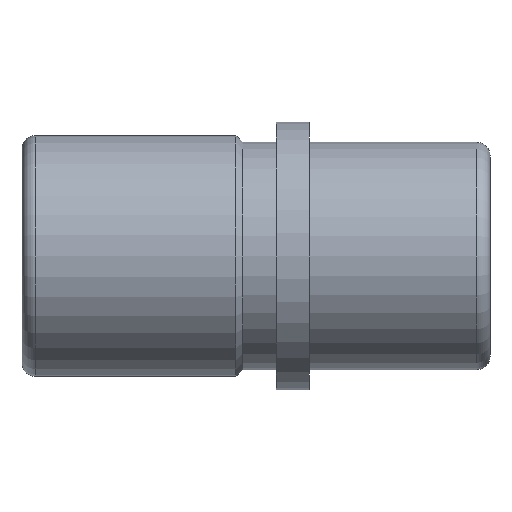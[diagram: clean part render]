
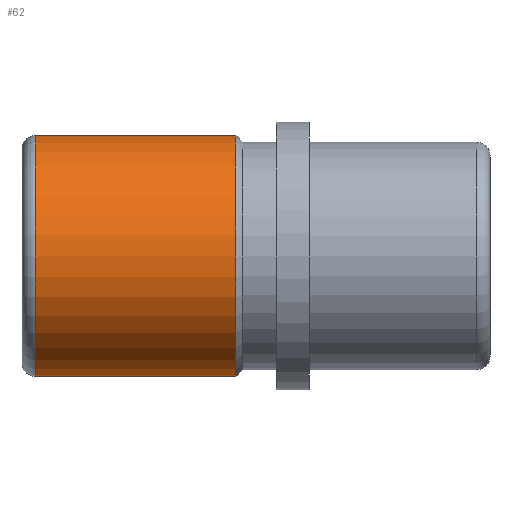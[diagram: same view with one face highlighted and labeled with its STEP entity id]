
A CAD part, front view. The second image highlights one B-rep face of the part: STEP entity #62.
In plain terms, the highlighted cylindrical face has radius 18 mm (diameter 36 mm), a full revolution.
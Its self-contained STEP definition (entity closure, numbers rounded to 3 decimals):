
#62 = ADVANCED_FACE( '', ( #131, #132 ), #133, .T. );
#131 = FACE_OUTER_BOUND( '', #194, .T. );
#132 = FACE_OUTER_BOUND( '', #195, .T. );
#133 = CYLINDRICAL_SURFACE( '', #196, 18. );
#194 = EDGE_LOOP( '', ( #275 ) );
#195 = EDGE_LOOP( '', ( #276 ) );
#196 = AXIS2_PLACEMENT_3D( '', #277, #278, #279 );
#275 = ORIENTED_EDGE( '', *, *, #309, .T. );
#276 = ORIENTED_EDGE( '', *, *, #304, .F. );
#277 = CARTESIAN_POINT( '', ( 27., 0., 0. ) );
#278 = DIRECTION( '', ( -1., 0., 0. ) );
#279 = DIRECTION( '', ( 0., 0., -1. ) );
#304 = EDGE_CURVE( '', #342, #342, #343, .T. );
#309 = EDGE_CURVE( '', #350, #350, #351, .T. );
#342 = VERTEX_POINT( '', #384 );
#343 = CIRCLE( '', #385, 18. );
#350 = VERTEX_POINT( '', #392 );
#351 = CIRCLE( '', #393, 18. );
#384 = CARTESIAN_POINT( '', ( -11., 0., -18. ) );
#385 = AXIS2_PLACEMENT_3D( '', #428, #429, #430 );
#392 = CARTESIAN_POINT( '', ( -41., 0., -18. ) );
#393 = AXIS2_PLACEMENT_3D( '', #437, #438, #439 );
#428 = CARTESIAN_POINT( '', ( -11., 0., 0. ) );
#429 = DIRECTION( '', ( 1., 0., 0. ) );
#430 = DIRECTION( '', ( 0., 0., -1. ) );
#437 = CARTESIAN_POINT( '', ( -41., 0., 0. ) );
#438 = DIRECTION( '', ( 1., 0., 0. ) );
#439 = DIRECTION( '', ( 0., 0., -1. ) );
